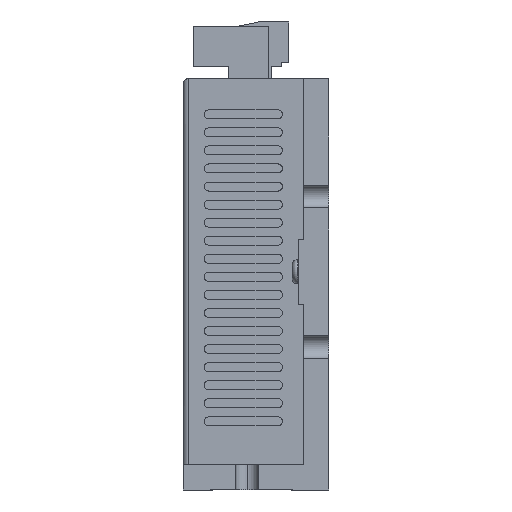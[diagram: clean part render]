
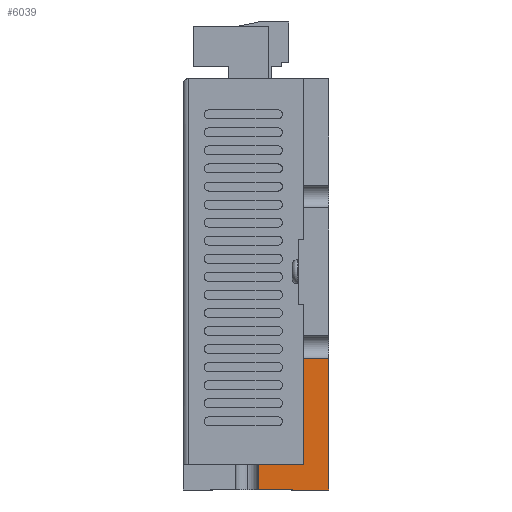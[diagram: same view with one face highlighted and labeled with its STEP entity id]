
A CAD part, left-side view. The second image highlights one B-rep face of the part: STEP entity #6039.
In plain terms, the highlighted planar face has unit normal (-1, 0, 0).
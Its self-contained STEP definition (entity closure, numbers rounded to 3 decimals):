
#233 = DIRECTION ( 'NONE',  ( 0., -1., 0. ) ) ;
#433 = EDGE_CURVE ( 'NONE', #12177, #11629, #10323, .T. ) ;
#797 = EDGE_CURVE ( 'NONE', #6186, #4299, #10370, .T. ) ;
#1014 = CARTESIAN_POINT ( 'NONE',  ( -79.686, 29., -42.401 ) ) ;
#1182 = VECTOR ( 'NONE', #6504, 1000. ) ;
#1260 = CARTESIAN_POINT ( 'NONE',  ( -79.686, 29., -47.401 ) ) ;
#1494 = VERTEX_POINT ( 'NONE', #8430 ) ;
#1778 = CARTESIAN_POINT ( 'NONE',  ( -79.686, 0., -47.401 ) ) ;
#1949 = CARTESIAN_POINT ( 'NONE',  ( -79.686, 29., -47.401 ) ) ;
#1980 = ORIENTED_EDGE ( 'NONE', *, *, #7382, .F. ) ;
#2027 = LINE ( 'NONE', #9050, #10514 ) ;
#2210 = DIRECTION ( 'NONE',  ( 0., 1., 0. ) ) ;
#2370 = AXIS2_PLACEMENT_3D ( 'NONE', #1949, #6091, #5064 ) ;
#3069 = ORIENTED_EDGE ( 'NONE', *, *, #9855, .T. ) ;
#3557 = VECTOR ( 'NONE', #2210, 1000. ) ;
#4119 = LINE ( 'NONE', #6290, #3557 ) ;
#4232 = CARTESIAN_POINT ( 'NONE',  ( -79.686, 0., -21.151 ) ) ;
#4299 = VERTEX_POINT ( 'NONE', #1778 ) ;
#5064 = DIRECTION ( 'NONE',  ( 0., 0., -1. ) ) ;
#5151 = ORIENTED_EDGE ( 'NONE', *, *, #797, .T. ) ;
#5436 = EDGE_CURVE ( 'NONE', #6186, #12177, #11848, .T. ) ;
#5527 = DIRECTION ( 'NONE',  ( 0., 0., 1. ) ) ;
#5549 = LINE ( 'NONE', #11673, #1182 ) ;
#6039 = ADVANCED_FACE ( 'NONE', ( #7174 ), #8137, .F. ) ;
#6091 = DIRECTION ( 'NONE',  ( 1., 0., 0. ) ) ;
#6173 = DIRECTION ( 'NONE',  ( 0., 0., 1. ) ) ;
#6186 = VERTEX_POINT ( 'NONE', #11669 ) ;
#6290 = CARTESIAN_POINT ( 'NONE',  ( -79.686, 0., -21.151 ) ) ;
#6504 = DIRECTION ( 'NONE',  ( 0., 0., 1. ) ) ;
#6564 = ORIENTED_EDGE ( 'NONE', *, *, #12054, .T. ) ;
#6686 = CARTESIAN_POINT ( 'NONE',  ( -79.686, 14., -42.401 ) ) ;
#7174 = FACE_OUTER_BOUND ( 'NONE', #9178, .T. ) ;
#7382 = EDGE_CURVE ( 'NONE', #11629, #1494, #5549, .T. ) ;
#8137 = PLANE ( 'NONE',  #2370 ) ;
#8430 = CARTESIAN_POINT ( 'NONE',  ( -79.686, 5., -21.151 ) ) ;
#8564 = VECTOR ( 'NONE', #11681, 1000. ) ;
#9050 = CARTESIAN_POINT ( 'NONE',  ( -79.686, 0., -47.401 ) ) ;
#9178 = EDGE_LOOP ( 'NONE', ( #3069, #6564, #1980, #11594, #12501, #5151 ) ) ;
#9855 = EDGE_CURVE ( 'NONE', #4299, #11220, #2027, .T. ) ;
#9951 = VECTOR ( 'NONE', #233, 1000. ) ;
#10323 = LINE ( 'NONE', #1014, #8564 ) ;
#10370 = LINE ( 'NONE', #1260, #9951 ) ;
#10514 = VECTOR ( 'NONE', #6173, 1000. ) ;
#10962 = CARTESIAN_POINT ( 'NONE',  ( -79.686, 14., -47.401 ) ) ;
#11220 = VERTEX_POINT ( 'NONE', #4232 ) ;
#11594 = ORIENTED_EDGE ( 'NONE', *, *, #433, .F. ) ;
#11629 = VERTEX_POINT ( 'NONE', #12219 ) ;
#11669 = CARTESIAN_POINT ( 'NONE',  ( -79.686, 14., -47.401 ) ) ;
#11673 = CARTESIAN_POINT ( 'NONE',  ( -79.686, 5., -42.401 ) ) ;
#11681 = DIRECTION ( 'NONE',  ( 0., -1., 0. ) ) ;
#11848 = LINE ( 'NONE', #10962, #12333 ) ;
#12054 = EDGE_CURVE ( 'NONE', #11220, #1494, #4119, .T. ) ;
#12177 = VERTEX_POINT ( 'NONE', #6686 ) ;
#12219 = CARTESIAN_POINT ( 'NONE',  ( -79.686, 5., -42.401 ) ) ;
#12333 = VECTOR ( 'NONE', #5527, 1000. ) ;
#12501 = ORIENTED_EDGE ( 'NONE', *, *, #5436, .F. ) ;
